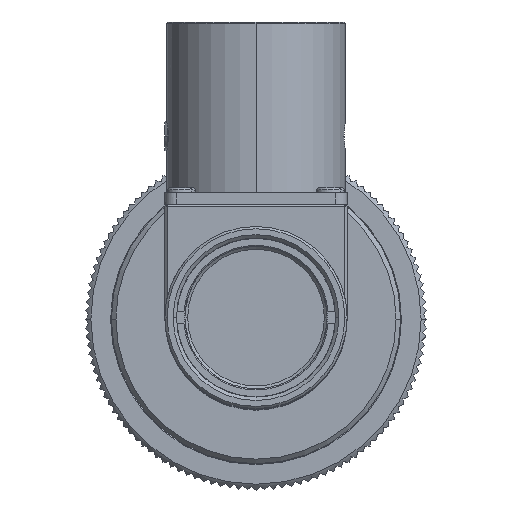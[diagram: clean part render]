
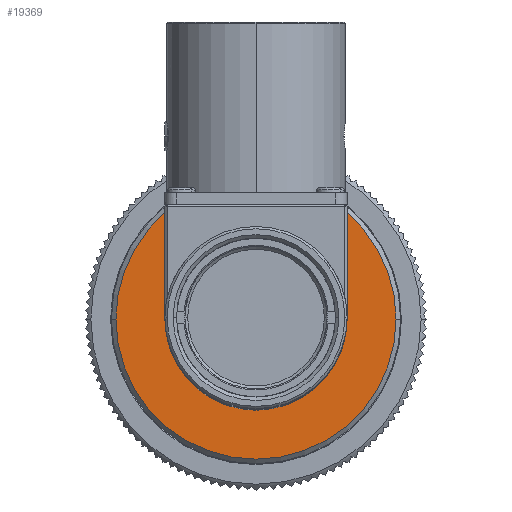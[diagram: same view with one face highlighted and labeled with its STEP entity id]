
A CAD part, top view. The second image highlights one B-rep face of the part: STEP entity #19369.
In plain terms, the highlighted planar face has unit normal (0, 0, 1).
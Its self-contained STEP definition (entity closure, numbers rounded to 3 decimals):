
#1274 = DIRECTION ( 'NONE',  ( -1., 0., 0. ) ) ;
#1275 = DIRECTION ( 'NONE',  ( 0., 0., 1. ) ) ;
#1276 = CARTESIAN_POINT ( 'NONE',  ( 0., 0., -35.12 ) ) ;
#1277 = AXIS2_PLACEMENT_3D ( 'NONE', #1276, #1275, #1274 ) ;
#1283 = CIRCLE ( 'NONE', #1277, 12.3 ) ;
#1843 = VERTEX_POINT ( 'NONE', #14788 ) ;
#2811 = EDGE_CURVE ( 'NONE', #1843, #4546, #14859, .T. ) ;
#3719 = CARTESIAN_POINT ( 'NONE',  ( -12.3, 0., -35.12 ) ) ;
#4546 = VERTEX_POINT ( 'NONE', #15138 ) ;
#4751 = CARTESIAN_POINT ( 'NONE',  ( 12.3, 0., -35.12 ) ) ;
#5246 = AXIS2_PLACEMENT_3D ( 'NONE', #5321, #5320, #5319 ) ;
#5319 = DIRECTION ( 'NONE',  ( -1., 0., 0. ) ) ;
#5320 = DIRECTION ( 'NONE',  ( 0., 0., 1. ) ) ;
#5321 = CARTESIAN_POINT ( 'NONE',  ( 0., 0., -35.12 ) ) ;
#5330 = CIRCLE ( 'NONE', #5246, 12.3 ) ;
#9815 = CARTESIAN_POINT ( 'NONE',  ( 0., 0., -35.12 ) ) ;
#9859 = DIRECTION ( 'NONE',  ( 1., 0., 0. ) ) ;
#9860 = DIRECTION ( 'NONE',  ( 0., 0., 1. ) ) ;
#9861 = AXIS2_PLACEMENT_3D ( 'NONE', #9815, #9860, #9859 ) ;
#9862 = CIRCLE ( 'NONE', #9861, 8. ) ;
#9882 = DIRECTION ( 'NONE',  ( 0., 0., -1. ) ) ;
#9883 = PLANE ( 'NONE',  #9922 ) ;
#9913 = DIRECTION ( 'NONE',  ( -1., 0., 0. ) ) ;
#9921 = CARTESIAN_POINT ( 'NONE',  ( 0., 8., -35.12 ) ) ;
#9922 = AXIS2_PLACEMENT_3D ( 'NONE', #9921, #9882, #9913 ) ;
#9927 = FACE_OUTER_BOUND ( 'NONE', #19332, .T. ) ;
#9935 = FACE_BOUND ( 'NONE', #17144, .T. ) ;
#11977 = EDGE_CURVE ( 'NONE', #16954, #13719, #1283, .T. ) ;
#13719 = VERTEX_POINT ( 'NONE', #3719 ) ;
#14788 = CARTESIAN_POINT ( 'NONE',  ( 8., 0., -35.12 ) ) ;
#14841 = DIRECTION ( 'NONE',  ( 0., 0., 1. ) ) ;
#14859 = CIRCLE ( 'NONE', #14894, 8. ) ;
#14877 = CARTESIAN_POINT ( 'NONE',  ( 0., 0., -35.12 ) ) ;
#14886 = DIRECTION ( 'NONE',  ( 1., 0., 0. ) ) ;
#14894 = AXIS2_PLACEMENT_3D ( 'NONE', #14877, #14841, #14886 ) ;
#15138 = CARTESIAN_POINT ( 'NONE',  ( -8., 0., -35.12 ) ) ;
#16954 = VERTEX_POINT ( 'NONE', #4751 ) ;
#17045 = ORIENTED_EDGE ( 'NONE', *, *, #19321, .F. ) ;
#17144 = EDGE_LOOP ( 'NONE', ( #17434, #17045 ) ) ;
#17287 = EDGE_CURVE ( 'NONE', #13719, #16954, #5330, .T. ) ;
#17434 = ORIENTED_EDGE ( 'NONE', *, *, #2811, .F. ) ;
#19304 = ORIENTED_EDGE ( 'NONE', *, *, #11977, .T. ) ;
#19321 = EDGE_CURVE ( 'NONE', #4546, #1843, #9862, .T. ) ;
#19332 = EDGE_LOOP ( 'NONE', ( #19358, #19304 ) ) ;
#19358 = ORIENTED_EDGE ( 'NONE', *, *, #17287, .T. ) ;
#19369 = ADVANCED_FACE ( 'NONE', ( #9927, #9935 ), #9883, .F. ) ;
